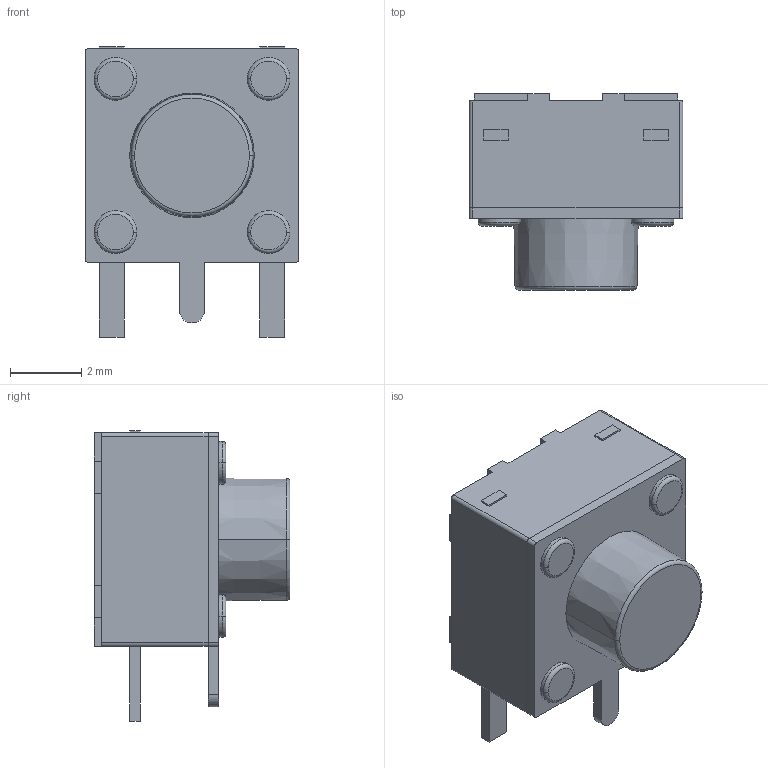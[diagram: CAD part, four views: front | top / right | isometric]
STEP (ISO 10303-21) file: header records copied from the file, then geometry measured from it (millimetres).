
FILE_DESCRIPTION((''),'2;1');
FILE_NAME('JQF6060-B0431-01G-104_ASM','2026-04-20T10:33:41',('Admin'),(''),'CREO PARAMETRIC BY PTC INC, 2019224','CREO PARAMETRIC BY PTC INC, 2019224','');
FILE_SCHEMA(('AUTOMOTIVE_DESIGN { 1 0 10303 214 1 1 1 1 }'));
Length unit declared in the file: millimetre
Products named in the file (3): JQF6060-B0431-01G-104_02; JQF6060-B0431-01G-104_04; JQF6060-B0431-01G-104_ASM
Assembly tree (2 placements, depth 2):
  JQF6060-B0431-01G-104_ASM
    JQF6060-B0431-01G-104_02
    JQF6060-B0431-01G-104_04
Bounding box: 6 x 5.5 x 8.15 mm (x, y, z)
Volume: 142.4 mm3; surface area: 262 mm2
Topology: 2 solids, 2 shells, 107 faces, 266 edges, 182 vertices
Faces by surface type: plane 68, cylinder 27, torus 10, cone 2
Entity records: 4120 total; most frequent: DIRECTION 580, CARTESIAN_POINT 561, ORIENTED_EDGE 520, EDGE_CURVE 260, PRESENTATION_STYLE_ASSIGNMENT 233, STYLED_ITEM 228, CURVE_STYLE 227, AXIS2_PLACEMENT_3D 196
